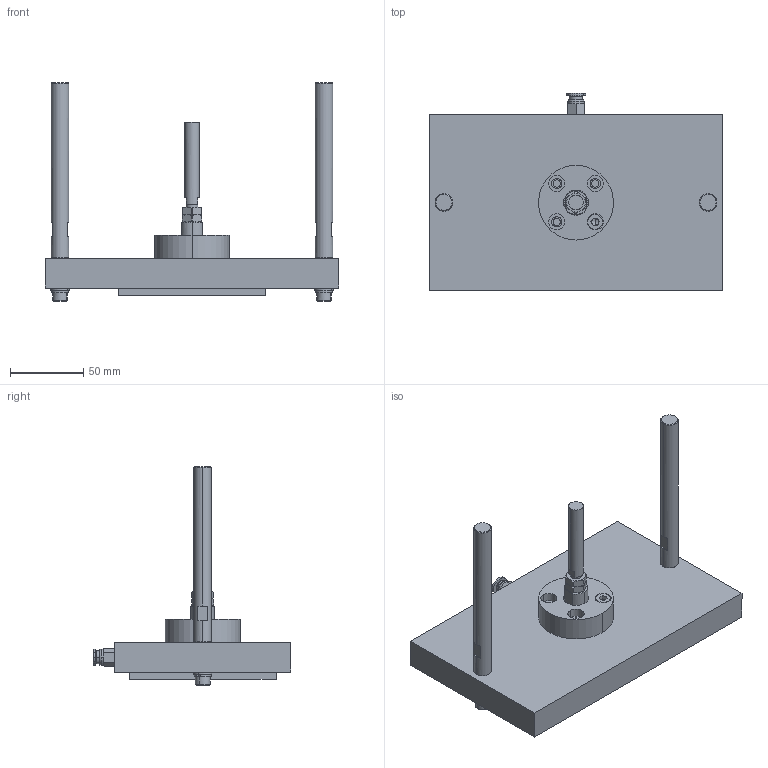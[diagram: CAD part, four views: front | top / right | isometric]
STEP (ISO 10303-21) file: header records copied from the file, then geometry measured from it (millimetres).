
FILE_DESCRIPTION (( 'STEP AP214' ), '1' );
FILE_NAME ('No000277_Z.STEP', '2020-07-14T05:53:44', ( '' ), ( '' ), 'SwSTEP 2.0', 'SolidWorks 2017', '' );
FILE_SCHEMA (( 'AUTOMOTIVE_DESIGN' ));
Length unit declared in the file: millimetre
Products named in the file (17): _0277_SSA02; 0277_002_MSPCN20-50; 0277_303_CBM6-20; 0277_003_FJAZ8; _0277_SA02; No000277_Z; 0277_203_Plate; 0277_006_SFJC12-120-M6-SC15; 0277_Z_003_FJAZ8_2; 0277_Z_002_MSPCN20-50_6; 0277_014_SCBS6-30; 0277_005_MSCNL6-1; 0277_Z_003_FJAZ8_1; 0277_Z_002_MSPCN20-50_4; _0277_SSA03; 0277_Z_002_MSPCN20-50_5; 0277_009_EPA-100-100-5
Assembly tree (18 placements, depth 5):
  No000277_Z
    _0277_SA02
      _0277_SSA02
        0277_002_MSPCN20-50
          0277_Z_002_MSPCN20-50_4
          0277_Z_002_MSPCN20-50_5
          0277_Z_002_MSPCN20-50_6
        0277_003_FJAZ8
          0277_Z_003_FJAZ8_1
          0277_Z_003_FJAZ8_2
        0277_303_CBM6-20
      _0277_SSA03  x2
        0277_006_SFJC12-120-M6-SC15
      0277_203_Plate
      0277_005_MSCNL6-1
      0277_009_EPA-100-100-5
      0277_014_SCBS6-30  x2
Bounding box: 200 x 134.6 x 149.1 mm (x, y, z)
Volume: 587848.7 mm3; surface area: 115699.4 mm2
Topology: 13 solids, 13 shells, 355 faces, 816 edges, 494 vertices
Faces by surface type: plane 144, cylinder 111, cone 98, bspline 2
Entity records: 9453 total; most frequent: CARTESIAN_POINT 1905, DIRECTION 1527, ORIENTED_EDGE 1340, EDGE_CURVE 670, AXIS2_PLACEMENT_3D 614, VERTEX_POINT 414, EDGE_LOOP 348, LINE 299
